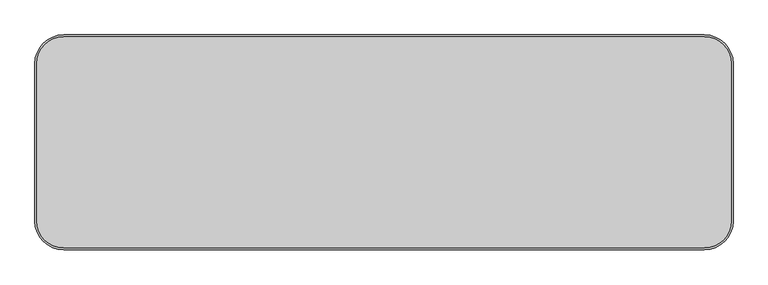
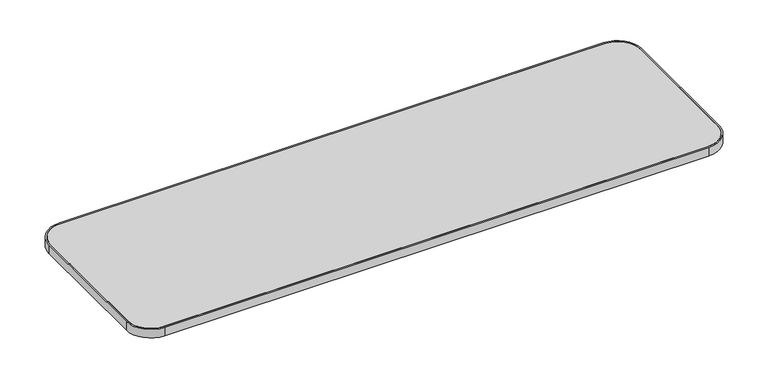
"""IFC4 building model written with IfcOpenShell, lengths in millimetres: furniture geometry, Steelcase - Answer Solution - Universal Table - Straight - 3mm Edge : 24D x 78W."""

from ifc_helpers import new_model, si_unit, point, frame, frame_2d, origin, place, context, project, spatial, polyline, circle_curve, trimmed, segment, composite_curve, outline, extrude, source, transform, mapped, element, save


def furniture_a98a5081(model_context):
    return source(origin(), model_context, "Body", "SweptSolid", [
        extrude(outline(composite_curve([segment(polyline([(5.08, -528.32), (5.08, -81.28)]), True, "CONTINUOUS"), segment(trimmed(circle_curve(frame_2d((81.28, -81.28)), 76.2), [point((5.08, -81.28))], [point((81.28, -5.08))], False, "CARTESIAN"), True, "CONTINUOUS"), segment(polyline([(81.28, -5.08), (1899.92, -5.08)]), True, "CONTINUOUS"), segment(trimmed(circle_curve(frame_2d((1899.92, -81.28)), 76.2), [point((1899.92, -5.08))], [point((1976.12, -81.28))], False, "CARTESIAN"), True, "CONTINUOUS"), segment(polyline([(1976.12, -81.28), (1976.12, -528.32)]), True, "CONTINUOUS"), segment(trimmed(circle_curve(frame_2d((1899.92, -528.32)), 76.2), [point((1976.12, -528.32))], [point((1899.92, -604.52))], False, "CARTESIAN"), True, "CONTINUOUS"), segment(polyline([(1899.92, -604.52), (81.28, -604.52)]), True, "CONTINUOUS"), segment(trimmed(circle_curve(frame_2d((81.28, -528.32)), 76.2), [point((81.28, -604.52))], [point((5.08, -528.32))], False, "CARTESIAN"), True, "CONTINUOUS")], self_intersect=False)), frame((0.0, 0.0, 668.274), z_axis=(0.0, 0.0, 1.0), x_axis=(1.0, 0.0, 0.0)), (0.0, 0.0, 1.0), 30.0990349),
        extrude(outline(composite_curve([segment(polyline([(81.28, 0.0), (1899.92, 0.0)]), True, "CONTINUOUS"), segment(trimmed(circle_curve(frame_2d((1899.92, -81.28)), 81.28), [point((1899.92, 0.0))], [point((1981.2, -81.28))], False, "CARTESIAN"), True, "CONTINUOUS"), segment(polyline([(1981.2, -81.28), (1981.2, -528.32)]), True, "CONTINUOUS"), segment(trimmed(circle_curve(frame_2d((1899.92, -528.32)), 81.28), [point((1981.2, -528.32))], [point((1899.92, -609.6))], False, "CARTESIAN"), True, "CONTINUOUS"), segment(polyline([(1899.92, -609.6), (81.28, -609.6)]), True, "CONTINUOUS"), segment(trimmed(circle_curve(frame_2d((81.28, -528.32)), 81.28), [point((81.28, -609.6))], [point((0.0, -528.32))], False, "CARTESIAN"), True, "CONTINUOUS"), segment(polyline([(0.0, -528.32), (0.0, -81.28)]), True, "CONTINUOUS"), segment(trimmed(circle_curve(frame_2d((81.28, -81.28)), 81.28), [point((0.0, -81.28))], [point((81.28, 0.0))], False, "CARTESIAN"), True, "CONTINUOUS")], self_intersect=False), holes=[composite_curve([segment(trimmed(circle_curve(frame_2d((81.28, -81.28)), 76.2), [point((81.28, -5.08))], [point((5.08, -81.28))], True, "CARTESIAN"), True, "CONTINUOUS"), segment(polyline([(5.08, -81.28), (5.08, -528.32)]), True, "CONTINUOUS"), segment(trimmed(circle_curve(frame_2d((81.28, -528.32)), 76.2), [point((5.08, -528.32))], [point((81.28, -604.52))], True, "CARTESIAN"), True, "CONTINUOUS"), segment(polyline([(81.28, -604.52), (1899.92, -604.52)]), True, "CONTINUOUS"), segment(trimmed(circle_curve(frame_2d((1899.92, -528.32)), 76.2), [point((1899.92, -604.52))], [point((1976.12, -528.32))], True, "CARTESIAN"), True, "CONTINUOUS"), segment(polyline([(1976.12, -528.32), (1976.12, -81.28)]), True, "CONTINUOUS"), segment(trimmed(circle_curve(frame_2d((1899.92, -81.28)), 76.2), [point((1976.12, -81.28))], [point((1899.92, -5.08))], True, "CARTESIAN"), True, "CONTINUOUS"), segment(polyline([(1899.92, -5.08), (81.28, -5.08)]), True, "CONTINUOUS")], self_intersect=False)]), frame((0.0, 0.0, 668.274), z_axis=(0.0, 0.0, 1.0), x_axis=(1.0, 0.0, 0.0)), (0.0, 0.0, 1.0), 30.0990349),
    ])


if __name__ == "__main__":
    model = new_model("IFC4")
    model_context = context("Model", 3, world=origin())
    ifc_project = project(units=[si_unit("LENGTHUNIT", "METRE", prefix="MILLI")], contexts=[model_context])
    site = spatial("IfcSite", under=ifc_project)
    building = spatial("IfcBuilding", under=site)
    placement = place(None, origin())
    furniture_shape = furniture_a98a5081(model_context)
    element("IfcFurniture", 1, ObjectType="Steelcase - Answer Solution - Universal Table - Straight - 3mm Edge : 24D x 78W", at=placement, inside=building, context=model_context, shape_type="MappedRepresentation", body=[
        mapped(furniture_shape, transform((0.0, 0.0, 0.0), x_axis=(1.0, 0.0, 0.0), y_axis=(0.0, 1.0, 0.0), z_axis=(0.0, 0.0, 1.0))),
    ])
    save(model, "model.ifc")
